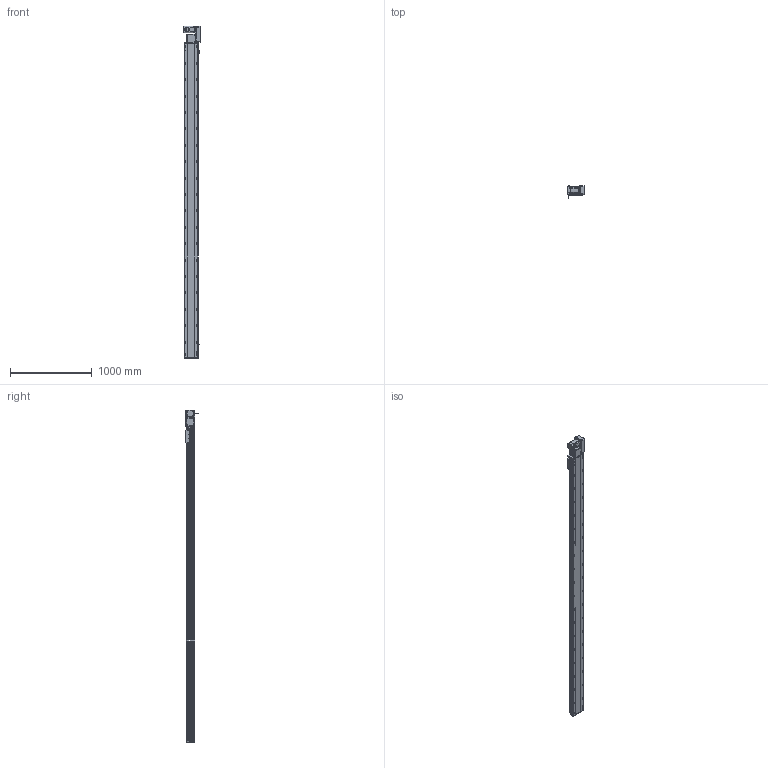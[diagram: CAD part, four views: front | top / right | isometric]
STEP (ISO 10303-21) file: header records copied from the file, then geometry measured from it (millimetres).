
FILE_DESCRIPTION (( 'STEP AP214' ), '1' );
FILE_NAME ('RTB17S-XX-3550-R-M75-C4.STEP', '2025-12-12T01:53:57', ( '' ), ( '' ), 'SwSTEP 2.0', 'SolidWorks 2018', '' );
FILE_SCHEMA (( 'AUTOMOTIVE_DESIGN' ));
Length unit declared in the file: millimetre
Products named in the file (15): RTH13-BL-012覜茼え俋离^RTB17S-賑釱_RTB17S-XX-XX-R-M75-C4; EE672^RTB17S-XX-XX-R-M75-C4; RTB17S-XX-3550-R-M75-C4; 750W萇儂^RTB17S-XX-XX-R-M75-C4; RTB22S-GY-008-M75--萇儂啣^RTB17S-R-々湍釱蚾饜-750W_RTB17S-XX-XX-R-M75-C4; RTB17S-R-々湍釱蚾饜-750W^RTB17S-XX-XX-R-M75-C4; RTB17S-L-004-賑釱^RTB17S-賑釱_RTB17S-XX-XX-R-M75-C4; RTB22S-GY-018P^RTB17S-R-々湍釱蚾饜-750W_RTB17S-XX-XX-R-M75-C4; RTB22S-GY-005P^RTB17S-R-々湍釱蚾饜-750W_RTB17S-XX-XX-R-M75-C4; RTB17S-L-001-耜醱啣^RTB17S-XX-XX-R-M75-C4; RTB17S-L-007奻裔^RTB17S-XX-XX-R-M75-C4; RTB22S-GY-017P^RTB17S-R-々湍釱蚾饜-750W_RTB17S-XX-XX-R-M75-C4; RTB17S-L-014-T20-P75--々湍釱^RTB17S-R-々湍釱蚾饜-750W_RTB17S-XX-XX-R-M75-C4; RTB17-R-011菁釱^RTB17S-XX-XX-R-M75-C4; RTB17S-賑釱^RTB17S-XX-XX-R-M75-C4
Assembly tree (17 placements, depth 3):
  RTB17S-XX-3550-R-M75-C4
    RTB17-R-011菁釱^RTB17S-XX-XX-R-M75-C4
    EE672^RTB17S-XX-XX-R-M75-C4  x3
    RTB17S-L-001-耜醱啣^RTB17S-XX-XX-R-M75-C4
    RTB17S-賑釱^RTB17S-XX-XX-R-M75-C4
      RTB17S-L-004-賑釱^RTB17S-賑釱_RTB17S-XX-XX-R-M75-C4
      RTH13-BL-012覜茼え俋离^RTB17S-賑釱_RTB17S-XX-XX-R-M75-C4
    RTB17S-L-007奻裔^RTB17S-XX-XX-R-M75-C4
    750W萇儂^RTB17S-XX-XX-R-M75-C4
    RTB17S-R-々湍釱蚾饜-750W^RTB17S-XX-XX-R-M75-C4
      RTB17S-L-014-T20-P75--々湍釱^RTB17S-R-々湍釱蚾饜-750W_RTB17S-XX-XX-R-M75-C4
      RTB22S-GY-005P^RTB17S-R-々湍釱蚾饜-750W_RTB17S-XX-XX-R-M75-C4
      RTB22S-GY-017P^RTB17S-R-々湍釱蚾饜-750W_RTB17S-XX-XX-R-M75-C4  x2
      RTB22S-GY-008-M75--萇儂啣^RTB17S-R-々湍釱蚾饜-750W_RTB17S-XX-XX-R-M75-C4
      RTB22S-GY-018P^RTB17S-R-々湍釱蚾饜-750W_RTB17S-XX-XX-R-M75-C4
Bounding box: 207.4 x 152.7 x 4049 mm (x, y, z)
Volume: 28141594.1 mm3; surface area: 5203158.6 mm2
Topology: 17 solids, 17 shells, 2297 faces, 6484 edges, 4202 vertices
Faces by surface type: plane 996, cylinder 885, bspline 294, cone 110, sphere 8, torus 4
Entity records: 68086 total; most frequent: CARTESIAN_POINT 20348, ORIENTED_EDGE 9812, DIRECTION 9032, EDGE_CURVE 4906, AXIS2_PLACEMENT_3D 3222, VERTEX_POINT 3206, VECTOR 2588, LINE 2588
